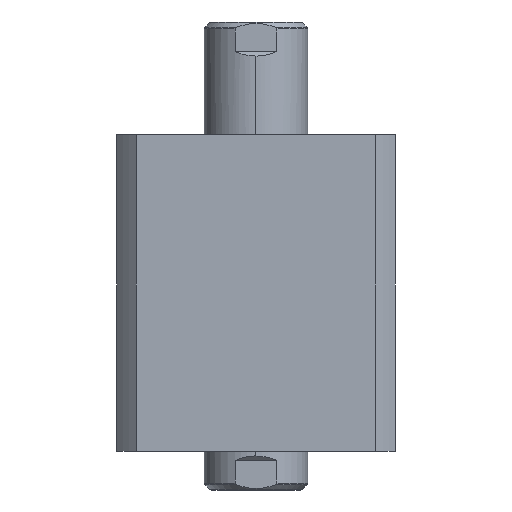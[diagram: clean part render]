
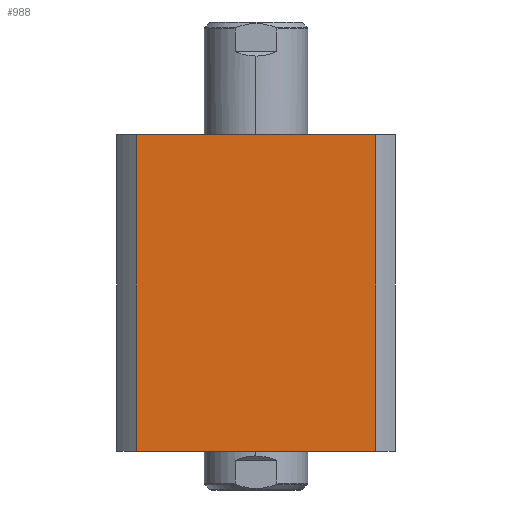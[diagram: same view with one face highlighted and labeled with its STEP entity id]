
A CAD part, left-side view. The second image highlights one B-rep face of the part: STEP entity #988.
In plain terms, the highlighted planar face has unit normal (-1, 0, 0).
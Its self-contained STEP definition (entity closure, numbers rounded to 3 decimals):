
#63 = ORIENTED_EDGE ( 'NONE', *, *, #16455, .T. ) ;
#761 = VERTEX_POINT ( 'NONE', #13688 ) ;
#902 = DIRECTION ( 'NONE',  ( 0., 1., 0. ) ) ;
#956 = DIRECTION ( 'NONE',  ( 1., 0., 0. ) ) ;
#988 = ADVANCED_FACE ( 'NONE', ( #14851 ), #3431, .F. ) ;
#1126 = VERTEX_POINT ( 'NONE', #16968 ) ;
#2967 = ORIENTED_EDGE ( 'NONE', *, *, #17964, .F. ) ;
#3431 = PLANE ( 'NONE',  #17352 ) ;
#3749 = VERTEX_POINT ( 'NONE', #16514 ) ;
#5072 = LINE ( 'NONE', #7169, #12615 ) ;
#5486 = DIRECTION ( 'NONE',  ( 0., 0., -1. ) ) ;
#5492 = LINE ( 'NONE', #18314, #9716 ) ;
#6407 = DIRECTION ( 'NONE',  ( 0., -1., 0. ) ) ;
#7169 = CARTESIAN_POINT ( 'NONE',  ( -47., 40.435, 300. ) ) ;
#7184 = ORIENTED_EDGE ( 'NONE', *, *, #8190, .F. ) ;
#7372 = CARTESIAN_POINT ( 'NONE',  ( -47., -40.435, 0. ) ) ;
#8158 = VECTOR ( 'NONE', #6407, 1000. ) ;
#8190 = EDGE_CURVE ( 'NONE', #1126, #761, #5072, .T. ) ;
#9045 = LINE ( 'NONE', #10977, #9476 ) ;
#9476 = VECTOR ( 'NONE', #13748, 1000. ) ;
#9699 = EDGE_CURVE ( 'NONE', #3749, #18436, #5492, .T. ) ;
#9716 = VECTOR ( 'NONE', #5486, 1000. ) ;
#10081 = ORIENTED_EDGE ( 'NONE', *, *, #9699, .F. ) ;
#10977 = CARTESIAN_POINT ( 'NONE',  ( -47., 47., 107. ) ) ;
#12615 = VECTOR ( 'NONE', #15737, 1000. ) ;
#13688 = CARTESIAN_POINT ( 'NONE',  ( -47., 40.435, 107. ) ) ;
#13748 = DIRECTION ( 'NONE',  ( 0., -1., 0. ) ) ;
#14110 = EDGE_LOOP ( 'NONE', ( #10081, #2967, #7184, #63 ) ) ;
#14851 = FACE_OUTER_BOUND ( 'NONE', #14110, .T. ) ;
#15300 = LINE ( 'NONE', #16388, #8158 ) ;
#15737 = DIRECTION ( 'NONE',  ( 0., 0., 1. ) ) ;
#16388 = CARTESIAN_POINT ( 'NONE',  ( -47., 47., 0. ) ) ;
#16455 = EDGE_CURVE ( 'NONE', #1126, #18436, #15300, .T. ) ;
#16514 = CARTESIAN_POINT ( 'NONE',  ( -47., -40.435, 107. ) ) ;
#16968 = CARTESIAN_POINT ( 'NONE',  ( -47., 40.435, 0. ) ) ;
#17352 = AXIS2_PLACEMENT_3D ( 'NONE', #18225, #956, #902 ) ;
#17964 = EDGE_CURVE ( 'NONE', #761, #3749, #9045, .T. ) ;
#18225 = CARTESIAN_POINT ( 'NONE',  ( -47., 47., 107. ) ) ;
#18314 = CARTESIAN_POINT ( 'NONE',  ( -47., -40.435, 300. ) ) ;
#18436 = VERTEX_POINT ( 'NONE', #7372 ) ;
